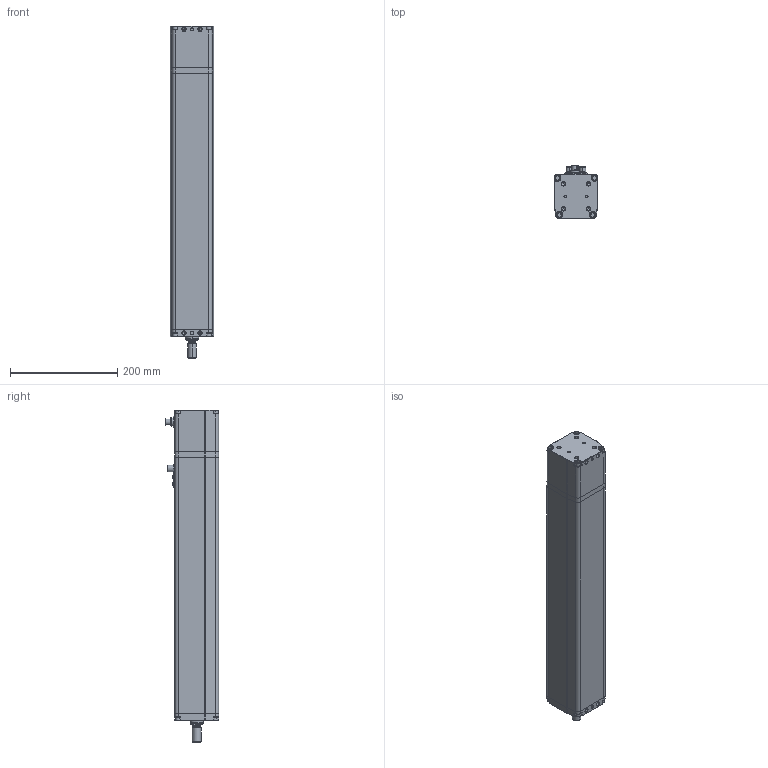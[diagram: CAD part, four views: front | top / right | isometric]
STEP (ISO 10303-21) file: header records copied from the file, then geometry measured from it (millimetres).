
FILE_DESCRIPTION (( 'STEP AP203' ), '1' );
FILE_NAME ('CTC-080-K__-____-_.step', '2023-09-29T10:05:00', ( '' ), ( '' ), 'SwSTEP 2.0', 'SolidWorks 2020', '' );
FILE_SCHEMA (( 'CONFIG_CONTROL_DESIGN' ));
Length unit declared in the file: millimetre
Products named in the file (4): CTC-080_Schubrohr_Hub 0400; CTC-080-K__-____-_; CTC-080_housing_Hub_0400_Bremse; CTC-080_Aufsatz-A_M16x1.5
Assembly tree (3 placements, depth 2):
  CTC-080-K__-____-_
    CTC-080_housing_Hub_0400_Bremse
    CTC-080_Schubrohr_Hub 0400
    CTC-080_Aufsatz-A_M16x1.5
Bounding box: 82 x 99.6 x 619 mm (x, y, z)
Volume: 3396694.3 mm3; surface area: 412774.6 mm2
Topology: 34 solids, 34 shells, 860 faces, 1914 edges, 1187 vertices
Faces by surface type: cylinder 338, plane 326, cone 100, torus 88, sphere 8
Entity records: 24204 total; most frequent: DIRECTION 4484, CARTESIAN_POINT 4163, ORIENTED_EDGE 3780, EDGE_CURVE 1890, AXIS2_PLACEMENT_3D 1776, VERTEX_POINT 1187, EDGE_LOOP 957, VECTOR 932
